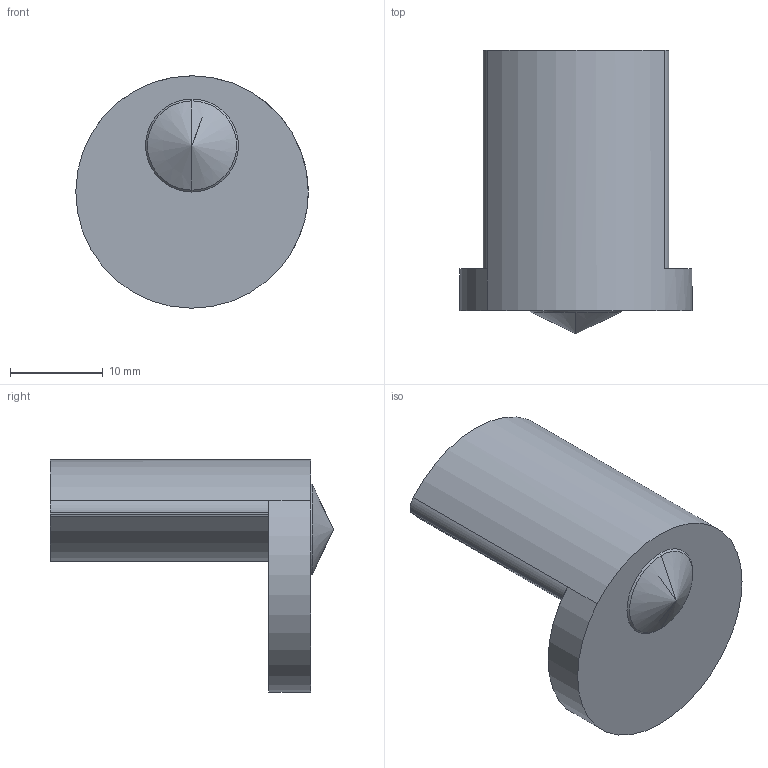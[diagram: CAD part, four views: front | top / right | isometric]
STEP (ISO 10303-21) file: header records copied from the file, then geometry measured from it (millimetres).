
FILE_DESCRIPTION( ( '' ), '1' );
FILE_NAME( 'C:/Documents and Settings/Nikhil/Desktop/Nik/Done/9113705.stp', '2013-10-23T10:27:06', ( '' ), ( '' ), ' ', ' ', ' ' );
FILE_SCHEMA( ( 'automotive_design' ) );
Length unit declared in the file: millimetre
Products named in the file (1): 1
Bounding box: 25 x 30.49 x 25 mm (x, y, z)
Volume: 5897.5 mm3; surface area: 2630.8 mm2
Topology: 1 solids, 2 shells, 26 faces, 64 edges, 40 vertices
Faces by surface type: plane 11, cylinder 9, cone 6
Entity records: 1472 total; most frequent: CARTESIAN_POINT 139, DIRECTION 132, STYLED_ITEM 127, PRESENTATION_STYLE_ASSIGNMENT 127, COLOUR_RGB 127, ORIENTED_EDGE 120, EDGE_CURVE 60, CURVE_STYLE 60
